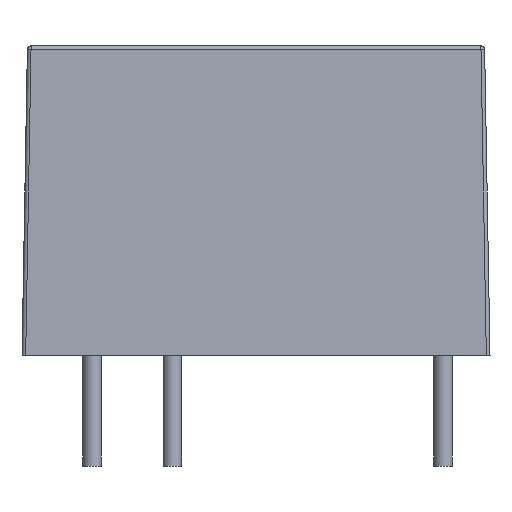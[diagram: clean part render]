
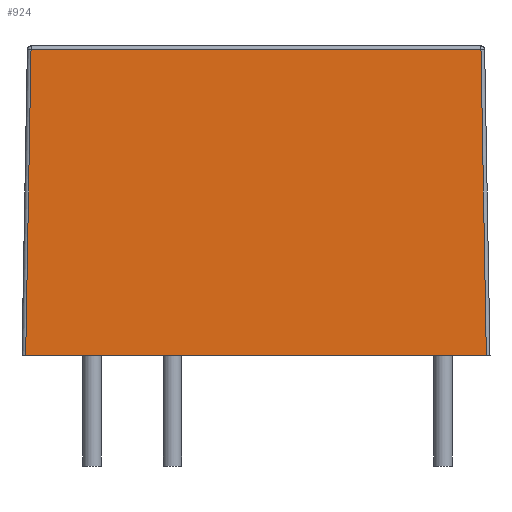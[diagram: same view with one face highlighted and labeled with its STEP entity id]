
A CAD part, front view. The second image highlights one B-rep face of the part: STEP entity #924.
In plain terms, the highlighted planar face has unit normal (0, -1, 0.018).
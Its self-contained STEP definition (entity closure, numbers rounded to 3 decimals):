
#63=PLANE('',#1023);
#113=FACE_OUTER_BOUND('',#179,.T.);
#179=EDGE_LOOP('',(#754,#755,#756,#757));
#249=LINE('',#1502,#319);
#254=LINE('',#1530,#324);
#256=LINE('',#1533,#326);
#263=LINE('',#1544,#333);
#319=VECTOR('',#1217,16.609);
#324=VECTOR('',#1248,16.609);
#326=VECTOR('',#1252,24.42);
#333=VECTOR('',#1267,25.);
#447=VERTEX_POINT('',#1491);
#450=VERTEX_POINT('',#1498);
#459=VERTEX_POINT('',#1523);
#461=VERTEX_POINT('',#1528);
#553=EDGE_CURVE('',#447,#450,#249,.T.);
#566=EDGE_CURVE('',#461,#459,#254,.T.);
#568=EDGE_CURVE('',#459,#447,#256,.T.);
#575=EDGE_CURVE('',#450,#461,#263,.T.);
#754=ORIENTED_EDGE('',*,*,#553,.F.);
#755=ORIENTED_EDGE('',*,*,#568,.F.);
#756=ORIENTED_EDGE('',*,*,#566,.F.);
#757=ORIENTED_EDGE('',*,*,#575,.F.);
#924=ADVANCED_FACE('',(#113),#63,.T.);
#1023=AXIS2_PLACEMENT_3D('',#1543,#1265,#1266);
#1217=DIRECTION('',(0.017,-0.017,-1.));
#1248=DIRECTION('',(0.017,0.017,1.));
#1252=DIRECTION('',(1.,0.,0.));
#1265=DIRECTION('center_axis',(0.,-1.,0.017));
#1266=DIRECTION('ref_axis',(1.,0.,0.));
#1267=DIRECTION('',(-1.,0.,0.));
#1491=CARTESIAN_POINT('',(12.21,-18.96,16.603));
#1498=CARTESIAN_POINT('',(12.5,-19.25,0.));
#1502=CARTESIAN_POINT('',(12.494,-19.244,0.332));
#1523=CARTESIAN_POINT('',(-12.21,-18.96,16.603));
#1528=CARTESIAN_POINT('',(-12.5,-19.25,0.));
#1530=CARTESIAN_POINT('',(-12.496,-19.246,0.218));
#1533=CARTESIAN_POINT('',(6.35,-18.96,16.603));
#1543=CARTESIAN_POINT('Origin',(12.7,-19.25,0.));
#1544=CARTESIAN_POINT('',(12.7,-19.25,0.));
